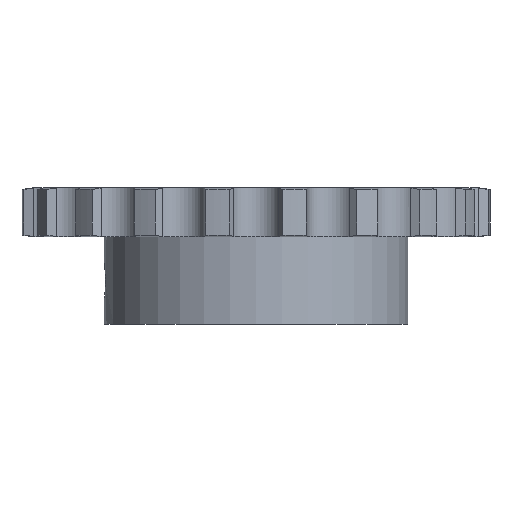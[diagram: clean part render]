
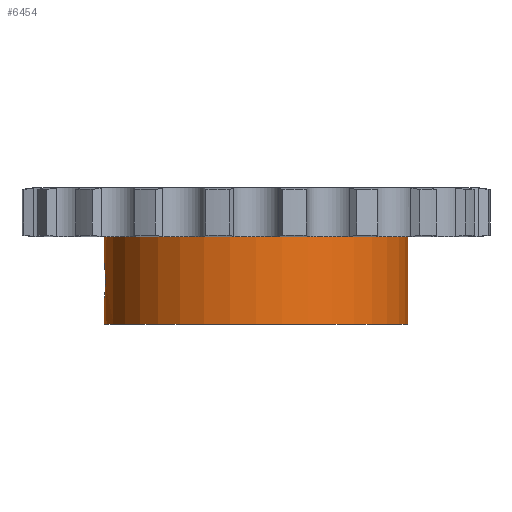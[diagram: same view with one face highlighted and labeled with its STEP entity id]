
A CAD part, front view. The second image highlights one B-rep face of the part: STEP entity #6454.
In plain terms, the highlighted cylindrical face has radius 50 mm (diameter 100 mm), a partial arc.
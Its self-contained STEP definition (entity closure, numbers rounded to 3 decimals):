
#1299=CARTESIAN_POINT('',(0.,0.,-8.1));
#1300=DIRECTION('',(0.,0.,1.));
#1301=DIRECTION('',(-1.,0.,0.));
#1302=AXIS2_PLACEMENT_3D('',#1299,#1300,#1301);
#3116=CARTESIAN_POINT('',(-50.,0.,
-16.5));
#3142=DIRECTION('',(0.,0.,1.));
#3143=VECTOR('',#3142,28.8);
#3144=CARTESIAN_POINT('',(50.,0.,-36.9));
#3145=LINE('',#3144,#3143);
#3273=CARTESIAN_POINT('',(-50.,0.,
-16.5));
#3274=CARTESIAN_POINT('',(-50.,-0.208,
-16.5));
#3275=CARTESIAN_POINT('',(-49.997,-0.651,
-16.522));
#3276=CARTESIAN_POINT('',(-49.984,-1.324,
-16.629));
#3277=CARTESIAN_POINT('',(-49.961,-2.005,
-16.819));
#3278=CARTESIAN_POINT('',(-49.931,-2.659,
-17.084));
#3279=CARTESIAN_POINT('',(-49.894,-3.278,
-17.422));
#3280=CARTESIAN_POINT('',(-49.852,-3.853,
-17.828));
#3281=CARTESIAN_POINT('',(-49.809,-4.375,
-18.295));
#3282=CARTESIAN_POINT('',(-49.766,-4.837,
-18.815));
#3283=CARTESIAN_POINT('',(-49.726,-5.233,
-19.383));
#3284=CARTESIAN_POINT('',(-49.69,-5.562,
-19.991));
#3285=CARTESIAN_POINT('',(-49.661,-5.817,
-20.632));
#3286=CARTESIAN_POINT('',(-49.639,-5.996,
-21.294));
#3287=CARTESIAN_POINT('',(-49.628,-6.089,
-21.921));
#3288=CARTESIAN_POINT('',(-49.626,-6.107,
-22.322));
#3289=CARTESIAN_POINT('',(-49.626,-6.107,
-22.5));
#3294=DIRECTION('',(0.,0.,1.));
#3295=VECTOR('',#3294,8.4);
#3296=CARTESIAN_POINT('',(-50.,0.,
-16.5));
#3297=LINE('',#3296,#3295);
#3301=DIRECTION('',(0.,0.,1.));
#3302=VECTOR('',#3301,8.4);
#3303=CARTESIAN_POINT('',(-50.,0.,-36.9));
#3304=LINE('',#3303,#3302);
#3308=CARTESIAN_POINT('',(-49.626,-6.107,
-22.5));
#3309=CARTESIAN_POINT('',(-49.626,-6.107,
-22.706));
#3310=CARTESIAN_POINT('',(-49.629,-6.084,
-23.153));
#3311=CARTESIAN_POINT('',(-49.643,-5.968,
-23.84));
#3312=CARTESIAN_POINT('',(-49.668,-5.757,
-24.546));
#3313=CARTESIAN_POINT('',(-49.702,-5.458,
-25.225));
#3314=CARTESIAN_POINT('',(-49.742,-5.077,
-25.862));
#3315=CARTESIAN_POINT('',(-49.787,-4.619,
-26.448));
#3316=CARTESIAN_POINT('',(-49.834,-4.089,
-26.977));
#3317=CARTESIAN_POINT('',(-49.879,-3.494,
-27.44));
#3318=CARTESIAN_POINT('',(-49.921,-2.844,
-27.827));
#3319=CARTESIAN_POINT('',(-49.955,-2.151,
-28.132));
#3320=CARTESIAN_POINT('',(-49.982,-1.425,
-28.35));
#3321=CARTESIAN_POINT('',(-49.997,-0.703,
-28.474));
#3322=CARTESIAN_POINT('',(-50.,-0.225,
-28.5));
#3323=CARTESIAN_POINT('',(-50.,0.,
-28.5));
#3336=CARTESIAN_POINT('',(0.,0.,-36.9));
#3337=DIRECTION('',(0.,0.,-1.));
#3338=DIRECTION('',(1.,0.,0.));
#3339=AXIS2_PLACEMENT_3D('',#3336,#3337,#3338);
#3727=CARTESIAN_POINT('',(-50.,0.,-36.9));
#3728=CARTESIAN_POINT('',(50.,0.,-36.9));
#3729=VERTEX_POINT('',#3727);
#3730=VERTEX_POINT('',#3728);
#3731=CARTESIAN_POINT('',(50.,0.,-8.1));
#3732=VERTEX_POINT('',#3731);
#3733=CARTESIAN_POINT('',(-50.,0.,-8.1));
#3734=VERTEX_POINT('',#3733);
#3934=VERTEX_POINT('',#3116);
#3937=VERTEX_POINT('',#3289);
#3939=VERTEX_POINT('',#3323);
#6438=CARTESIAN_POINT('',(0.,0.,8.1));
#6439=DIRECTION('',(0.,0.,1.));
#6440=DIRECTION('',(1.,0.,0.));
#6441=AXIS2_PLACEMENT_3D('',#6438,#6439,#6440);
#6442=CYLINDRICAL_SURFACE('',#6441,50.);
#6443=ORIENTED_EDGE('',*,*,#6428,.F.);
#6444=ORIENTED_EDGE('',*,*,#5955,.T.);
#6445=ORIENTED_EDGE('',*,*,#5262,.T.);
#6446=ORIENTED_EDGE('',*,*,#5952,.F.);
#6448=ORIENTED_EDGE('',*,*,#6447,.T.);
#6449=ORIENTED_EDGE('',*,*,#5948,.T.);
#6451=ORIENTED_EDGE('',*,*,#6450,.F.);
#6452=EDGE_LOOP('',(#6443,#6444,#6445,#6446,#6448,#6449,#6451));
#6453=FACE_OUTER_BOUND('',#6452,.F.);
#6454=ADVANCED_FACE('',(#6453),#6442,.T.);
#1303=CIRCLE('',#1302,50.);
#3290=B_SPLINE_CURVE_WITH_KNOTS('',3,(#3273,#3274,#3275,#3276,#3277,#3278,#3279,
#3280,#3281,#3282,#3283,#3284,#3285,#3286,#3287,#3288,#3289),.UNSPECIFIED.,.F.,
.F.,(4,1,1,1,1,1,1,1,1,1,1,1,1,1,4),(0.,0.065,0.138,
0.211,0.284,0.357,0.43,
0.503,0.576,0.649,0.722,
0.795,0.868,0.941,1.),.UNSPECIFIED.);
#3324=B_SPLINE_CURVE_WITH_KNOTS('',3,(#3308,#3309,#3310,#3311,#3312,#3313,#3314,
#3315,#3316,#3317,#3318,#3319,#3320,#3321,#3322,#3323),.UNSPECIFIED.,.F.,.F.,(4,
1,1,1,1,1,1,1,1,1,1,1,1,4),(0.,0.068,0.147,
0.225,0.303,0.382,0.46,
0.538,0.617,0.695,0.773,
0.852,0.93,1.),.UNSPECIFIED.);
#3340=CIRCLE('',#3339,50.);
#5262=EDGE_CURVE('',#3734,#3732,#1303,.T.);
#5948=EDGE_CURVE('',#3729,#3939,#3304,.T.);
#5952=EDGE_CURVE('',#3730,#3732,#3145,.T.);
#5955=EDGE_CURVE('',#3934,#3734,#3297,.T.);
#6428=EDGE_CURVE('',#3934,#3937,#3290,.T.);
#6447=EDGE_CURVE('',#3730,#3729,#3340,.T.);
#6450=EDGE_CURVE('',#3937,#3939,#3324,.T.);
